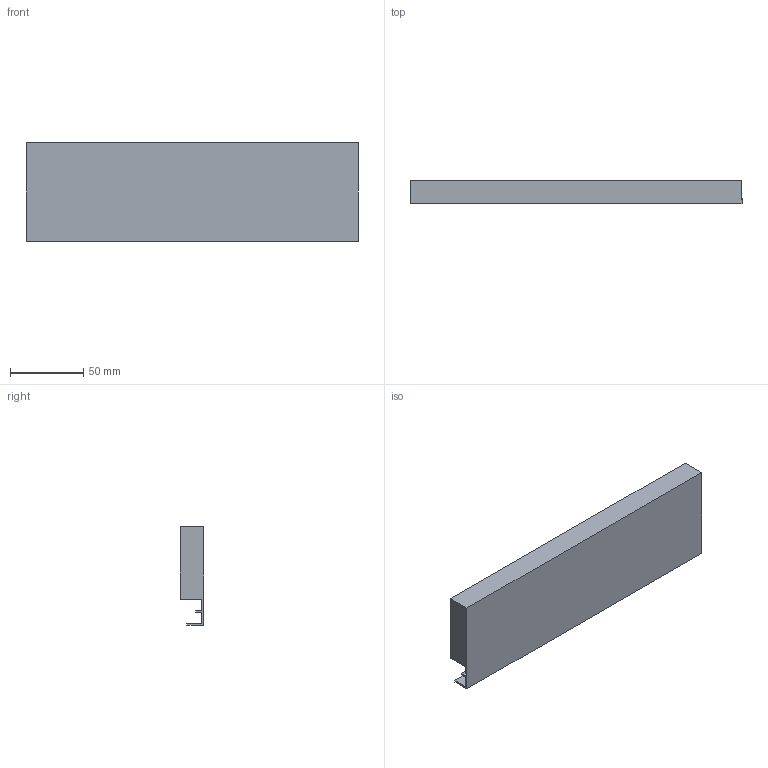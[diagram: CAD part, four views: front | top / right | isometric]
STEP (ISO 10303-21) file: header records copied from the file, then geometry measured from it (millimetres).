
FILE_DESCRIPTION (( 'STEP AP214' ), '1' );
FILE_NAME ('Innenschub-Blendenprofil_KAB350_S16.step', '2010-09-23T12:26:46', ( 'grass' ), ( '' ), 'SwSTEP 2.0', 'SolidWorks 2010', '' );
FILE_SCHEMA (( 'AUTOMOTIVE_DESIGN' ));
Length unit declared in the file: millimetre
Products named in the file (1): Innenschub-Blendenprofil_KAB350_S16
Bounding box: 227 x 15.9 x 67.6 mm (x, y, z)
Volume: 188187.7 mm3; surface area: 46230.4 mm2
Topology: 1 solids, 1 shells, 17 faces, 42 edges, 28 vertices
Faces by surface type: plane 15, cylinder 2
Entity records: 534 total; most frequent: CARTESIAN_POINT 88, ORIENTED_EDGE 84, DIRECTION 82, EDGE_CURVE 42, LINE 38, VECTOR 38, VERTEX_POINT 28, AXIS2_PLACEMENT_3D 22
